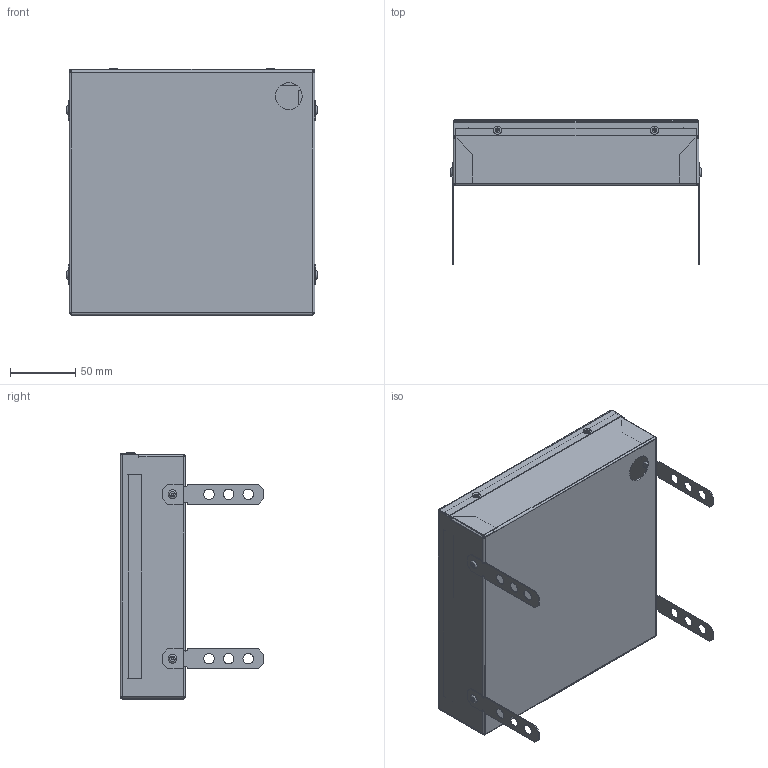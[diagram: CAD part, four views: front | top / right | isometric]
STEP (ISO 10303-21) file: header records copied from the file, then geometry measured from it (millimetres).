
FILE_DESCRIPTION(('STEP AP203'), '1');
FILE_NAME('ÔÑÂ301 05 000.00 ÑÁ - Ñâåòèëüíèê 188õ188', '', ('UNSPECIFIED'), ('UNSPECIFIED'), 'ASCON STEP Converter 1.6', 'ASCON Math Kernel', '');
FILE_SCHEMA(('CONFIG_CONTROL_DESIGN'));
Length unit declared in the file: millimetre
Products named in the file (10): ФСВ301 05 000.00 СБ5; ФСВ301 05 000.01 СБ6; ФСВ301 05 000.017; ДКП008 01 003.038; ФСВ301 03 000.029; ФСВ301 03 000.0510
Assembly tree (17 placements, depth 3):
  ФСВ301 05 000.00 СБ5
    ФСВ301 05 000.01 СБ6
      ФСВ301 05 000.017
      ДКП008 01 003.038
      ФСВ301 03 000.029  x3
      ДКП008 01 003.038  x3
    ФСВ301 03 000.0510
    (unnamed)  x2
    (unnamed)  x4
    (unnamed)
Bounding box: 191.8 x 110 x 188.2 mm (x, y, z)
Volume: 194888.1 mm3; surface area: 270473.5 mm2
Topology: 16 solids, 16 shells, 349 faces, 787 edges, 486 vertices
Faces by surface type: plane 242, cylinder 77, bspline 14, torus 12, cone 4
Full cylindrical faces by diameter (mm): 1.85 x4, 2.5 x2, 2.9 x2, 3.2 x4, 3.5 x10, 6.3 x2, 8 x12, 20.5 x1
Entity records: 9128 total; most frequent: CARTESIAN_POINT 1541, DIRECTION 1104, ORIENTED_EDGE 1022, EDGE_CURVE 511, LINE 382, VECTOR 382, AXIS2_PLACEMENT_3D 361, VERTEX_POINT 319
